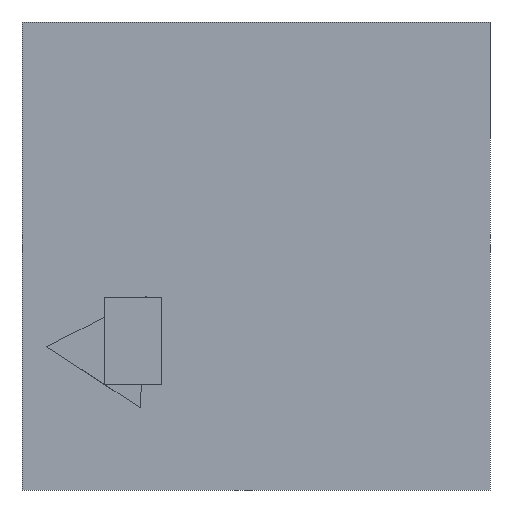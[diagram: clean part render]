
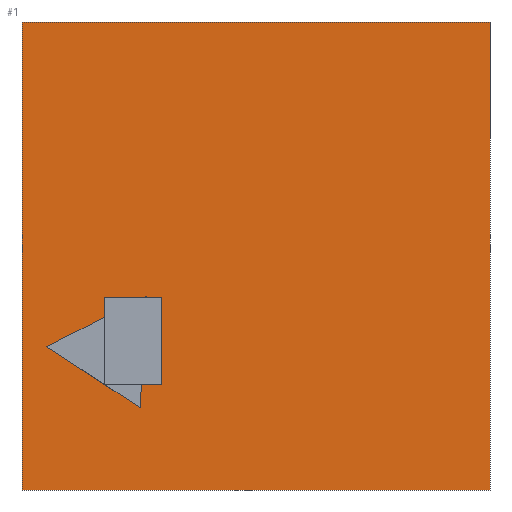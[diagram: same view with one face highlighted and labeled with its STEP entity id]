
A CAD part, front view. The second image highlights one B-rep face of the part: STEP entity #1.
In plain terms, the highlighted planar face has unit normal (0, -1, 0).
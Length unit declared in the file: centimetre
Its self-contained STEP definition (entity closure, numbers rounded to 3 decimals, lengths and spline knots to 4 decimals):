
#1 = ADVANCED_FACE ( 'NONE', ( #672, #343 ), #530, .F. ) ;
#7 = LINE ( 'NONE', #526, #55 ) ;
#11 = LINE ( 'NONE', #538, #577 ) ;
#19 = LINE ( 'NONE', #334, #162 ) ;
#30 = ORIENTED_EDGE ( 'NONE', *, *, #167, .F. ) ;
#55 = VECTOR ( 'NONE', #273, 100. ) ;
#59 = ORIENTED_EDGE ( 'NONE', *, *, #402, .F. ) ;
#65 = ORIENTED_EDGE ( 'NONE', *, *, #172, .F. ) ;
#71 = VERTEX_POINT ( 'NONE', #422 ) ;
#86 = CARTESIAN_POINT ( 'NONE',  ( 175.9474, 0., 225.6245 ) ) ;
#87 = ORIENTED_EDGE ( 'NONE', *, *, #517, .F. ) ;
#97 = EDGE_CURVE ( 'NONE', #757, #657, #617, .T. ) ;
#110 = EDGE_CURVE ( 'NONE', #709, #411, #221, .T. ) ;
#119 = DIRECTION ( 'NONE',  ( 0., 0., 1. ) ) ;
#139 = VECTOR ( 'NONE', #543, 100. ) ;
#140 = DIRECTION ( 'NONE',  ( 0.054, 0., 0.999 ) ) ;
#158 = LINE ( 'NONE', #427, #178 ) ;
#162 = VECTOR ( 'NONE', #140, 100. ) ;
#164 = VERTEX_POINT ( 'NONE', #837 ) ;
#166 = LINE ( 'NONE', #753, #282 ) ;
#167 = EDGE_CURVE ( 'NONE', #164, #709, #766, .T. ) ;
#168 = DIRECTION ( 'NONE',  ( 1., 0., 0. ) ) ;
#171 = CARTESIAN_POINT ( 'NONE',  ( 0., 0., 0. ) ) ;
#172 = EDGE_CURVE ( 'NONE', #657, #484, #158, .T. ) ;
#178 = VECTOR ( 'NONE', #622, 100. ) ;
#184 = CARTESIAN_POINT ( 'NONE',  ( 52.2549, 0., 306.2029 ) ) ;
#191 = AXIS2_PLACEMENT_3D ( 'NONE', #614, #797, #457 ) ;
#195 = LINE ( 'NONE', #711, #312 ) ;
#213 = CARTESIAN_POINT ( 'NONE',  ( 1000., 0., 0. ) ) ;
#214 = ORIENTED_EDGE ( 'NONE', *, *, #515, .T. ) ;
#215 = VECTOR ( 'NONE', #625, 100. ) ;
#221 = LINE ( 'NONE', #227, #366 ) ;
#227 = CARTESIAN_POINT ( 'NONE',  ( 1000., 0., 1000. ) ) ;
#241 = VECTOR ( 'NONE', #119, 100. ) ;
#260 = EDGE_CURVE ( 'NONE', #164, #596, #195, .T. ) ;
#273 = DIRECTION ( 'NONE',  ( 0.054, 0., 0.999 ) ) ;
#282 = VECTOR ( 'NONE', #823, 100. ) ;
#295 = CARTESIAN_POINT ( 'NONE',  ( 0., 0., 1000. ) ) ;
#296 = ORIENTED_EDGE ( 'NONE', *, *, #777, .F. ) ;
#297 = CARTESIAN_POINT ( 'NONE',  ( 255.205, 0., 225.6245 ) ) ;
#298 = VECTOR ( 'NONE', #740, 100. ) ;
#312 = VECTOR ( 'NONE', #379, 100. ) ;
#315 = CARTESIAN_POINT ( 'NONE',  ( 175.9474, 0., 369.0049 ) ) ;
#332 = EDGE_LOOP ( 'NONE', ( #214, #663, #30, #500 ) ) ;
#333 = CARTESIAN_POINT ( 'NONE',  ( 252.5193, 0., 175.7423 ) ) ;
#334 = CARTESIAN_POINT ( 'NONE',  ( 252.5193, 0., 175.7423 ) ) ;
#336 = VECTOR ( 'NONE', #503, 100. ) ;
#342 = CARTESIAN_POINT ( 'NONE',  ( 175.9474, 0., 411.8623 ) ) ;
#343 = FACE_OUTER_BOUND ( 'NONE', #332, .T. ) ;
#351 = VECTOR ( 'NONE', #701, 100. ) ;
#366 = VECTOR ( 'NONE', #759, 100. ) ;
#370 = CARTESIAN_POINT ( 'NONE',  ( 260.3579, 0., 411.8623 ) ) ;
#379 = DIRECTION ( 'NONE',  ( 0., 0., -1. ) ) ;
#393 = VERTEX_POINT ( 'NONE', #541 ) ;
#402 = EDGE_CURVE ( 'NONE', #393, #690, #667, .T. ) ;
#410 = EDGE_CURVE ( 'NONE', #690, #757, #19, .T. ) ;
#411 = VERTEX_POINT ( 'NONE', #213 ) ;
#419 = EDGE_CURVE ( 'NONE', #579, #71, #472, .T. ) ;
#422 = CARTESIAN_POINT ( 'NONE',  ( 298.266, 0., 225.6245 ) ) ;
#427 = CARTESIAN_POINT ( 'NONE',  ( 175.9474, 0., 411.8623 ) ) ;
#457 = DIRECTION ( 'NONE',  ( 0., 0., 1. ) ) ;
#472 = LINE ( 'NONE', #807, #298 ) ;
#484 = VERTEX_POINT ( 'NONE', #661 ) ;
#500 = ORIENTED_EDGE ( 'NONE', *, *, #260, .T. ) ;
#503 = DIRECTION ( 'NONE',  ( 0.838, 0., -0.546 ) ) ;
#507 = EDGE_CURVE ( 'NONE', #809, #579, #7, .T. ) ;
#508 = ORIENTED_EDGE ( 'NONE', *, *, #750, .F. ) ;
#515 = EDGE_CURVE ( 'NONE', #596, #411, #11, .T. ) ;
#517 = EDGE_CURVE ( 'NONE', #484, #788, #621, .T. ) ;
#518 = CARTESIAN_POINT ( 'NONE',  ( 1000., 0., 1000. ) ) ;
#521 = ORIENTED_EDGE ( 'NONE', *, *, #410, .F. ) ;
#526 = CARTESIAN_POINT ( 'NONE',  ( 252.5193, 0., 175.7423 ) ) ;
#530 = PLANE ( 'NONE',  #191 ) ;
#538 = CARTESIAN_POINT ( 'NONE',  ( 0., 0., 0. ) ) ;
#541 = CARTESIAN_POINT ( 'NONE',  ( 298.266, 0., 411.8623 ) ) ;
#543 = DIRECTION ( 'NONE',  ( -1., 0., 0. ) ) ;
#576 = CARTESIAN_POINT ( 'NONE',  ( 265.3693, 0., 414.4067 ) ) ;
#577 = VECTOR ( 'NONE', #805, 100. ) ;
#579 = VERTEX_POINT ( 'NONE', #297 ) ;
#580 = CARTESIAN_POINT ( 'NONE',  ( 265.2323, 0., 411.8623 ) ) ;
#588 = CARTESIAN_POINT ( 'NONE',  ( 298.266, 0., 225.6245 ) ) ;
#589 = VECTOR ( 'NONE', #168, 100. ) ;
#596 = VERTEX_POINT ( 'NONE', #171 ) ;
#597 = EDGE_CURVE ( 'NONE', #788, #785, #166, .T. ) ;
#598 = ORIENTED_EDGE ( 'NONE', *, *, #597, .F. ) ;
#614 = CARTESIAN_POINT ( 'NONE',  ( 0., 0., 1000. ) ) ;
#617 = LINE ( 'NONE', #820, #351 ) ;
#621 = LINE ( 'NONE', #86, #215 ) ;
#622 = DIRECTION ( 'NONE',  ( -1., 0., 0. ) ) ;
#625 = DIRECTION ( 'NONE',  ( 0., 0., -1. ) ) ;
#646 = LINE ( 'NONE', #839, #336 ) ;
#657 = VERTEX_POINT ( 'NONE', #370 ) ;
#661 = CARTESIAN_POINT ( 'NONE',  ( 175.9474, 0., 411.8623 ) ) ;
#663 = ORIENTED_EDGE ( 'NONE', *, *, #110, .F. ) ;
#667 = LINE ( 'NONE', #342, #139 ) ;
#672 = FACE_BOUND ( 'NONE', #715, .T. ) ;
#678 = ORIENTED_EDGE ( 'NONE', *, *, #97, .F. ) ;
#690 = VERTEX_POINT ( 'NONE', #580 ) ;
#701 = DIRECTION ( 'NONE',  ( -0.892, 0., -0.453 ) ) ;
#709 = VERTEX_POINT ( 'NONE', #518 ) ;
#710 = LINE ( 'NONE', #588, #241 ) ;
#711 = CARTESIAN_POINT ( 'NONE',  ( 0., 0., 1000. ) ) ;
#715 = EDGE_LOOP ( 'NONE', ( #598, #87, #65, #678, #521, #59, #508, #767, #720, #296 ) ) ;
#720 = ORIENTED_EDGE ( 'NONE', *, *, #507, .F. ) ;
#740 = DIRECTION ( 'NONE',  ( 1., 0., 0. ) ) ;
#750 = EDGE_CURVE ( 'NONE', #71, #393, #710, .T. ) ;
#753 = CARTESIAN_POINT ( 'NONE',  ( 265.3693, 0., 414.4067 ) ) ;
#757 = VERTEX_POINT ( 'NONE', #576 ) ;
#759 = DIRECTION ( 'NONE',  ( 0., 0., -1. ) ) ;
#766 = LINE ( 'NONE', #295, #589 ) ;
#767 = ORIENTED_EDGE ( 'NONE', *, *, #419, .F. ) ;
#777 = EDGE_CURVE ( 'NONE', #785, #809, #646, .T. ) ;
#785 = VERTEX_POINT ( 'NONE', #184 ) ;
#788 = VERTEX_POINT ( 'NONE', #315 ) ;
#797 = DIRECTION ( 'NONE',  ( 0., 1., 0. ) ) ;
#805 = DIRECTION ( 'NONE',  ( 1., 0., 0. ) ) ;
#807 = CARTESIAN_POINT ( 'NONE',  ( 175.9474, 0., 225.6245 ) ) ;
#809 = VERTEX_POINT ( 'NONE', #333 ) ;
#820 = CARTESIAN_POINT ( 'NONE',  ( 265.3693, 0., 414.4067 ) ) ;
#823 = DIRECTION ( 'NONE',  ( -0.892, 0., -0.453 ) ) ;
#837 = CARTESIAN_POINT ( 'NONE',  ( 0., 0., 1000. ) ) ;
#839 = CARTESIAN_POINT ( 'NONE',  ( 52.2549, 0., 306.2029 ) ) ;
